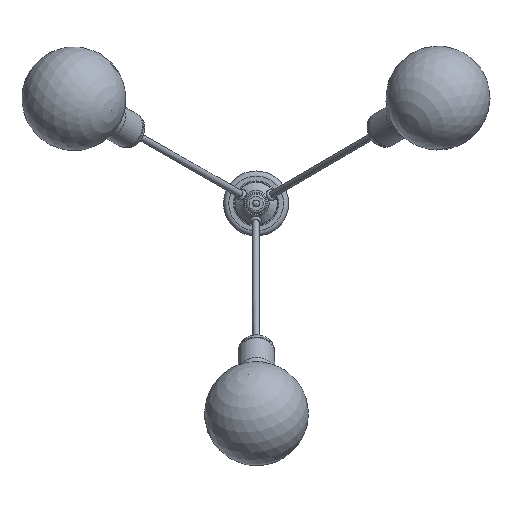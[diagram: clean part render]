
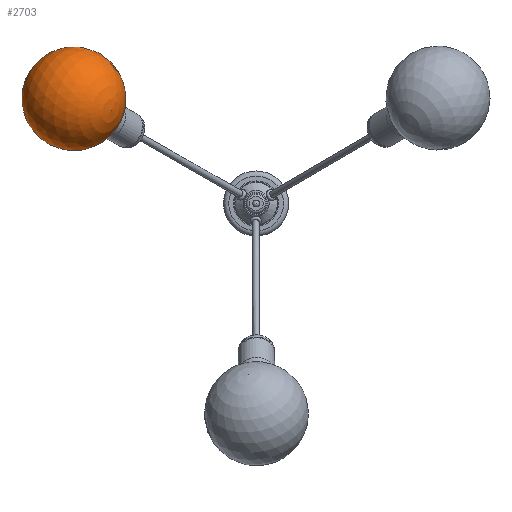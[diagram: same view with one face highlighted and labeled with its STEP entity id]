
A CAD part, front view. The second image highlights one B-rep face of the part: STEP entity #2703.
In plain terms, the highlighted spherical face has radius 60 mm.
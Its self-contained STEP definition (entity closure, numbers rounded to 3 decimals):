
#1709=FACE_BOUND('',#2023,.T.);
#1855=SPHERICAL_SURFACE('',#3067,60.);
#1946=FACE_OUTER_BOUND('',#2022,.T.);
#2022=EDGE_LOOP('',(#2620,#2621));
#2023=EDGE_LOOP('',(#2622,#2623));
#2108=CIRCLE('',#3057,31.766);
#2113=CIRCLE('',#3062,31.766);
#2117=CIRCLE('',#3068,60.);
#2207=VERTEX_POINT('',#5164);
#2208=VERTEX_POINT('',#5165);
#2215=VERTEX_POINT('',#5184);
#2216=VERTEX_POINT('',#5185);
#2343=EDGE_CURVE('',#2207,#2208,#2108,.T.);
#2348=EDGE_CURVE('',#2208,#2207,#2113,.T.);
#2353=EDGE_CURVE('',#2215,#2216,#2117,.T.);
#2620=ORIENTED_EDGE('',*,*,#2353,.T.);
#2621=ORIENTED_EDGE('',*,*,#2353,.F.);
#2622=ORIENTED_EDGE('',*,*,#2343,.F.);
#2623=ORIENTED_EDGE('',*,*,#2348,.F.);
#2703=ADVANCED_FACE('',(#1946,#1709),#1855,.T.);
#3057=AXIS2_PLACEMENT_3D('',#5166,#3828,#3829);
#3062=AXIS2_PLACEMENT_3D('',#5174,#3838,#3839);
#3067=AXIS2_PLACEMENT_3D('',#5183,#3849,#3850);
#3068=AXIS2_PLACEMENT_3D('',#5186,#3851,#3852);
#3828=DIRECTION('center_axis',(0.,1.,0.));
#3829=DIRECTION('ref_axis',(-1.,0.,0.));
#3838=DIRECTION('center_axis',(0.,1.,0.));
#3839=DIRECTION('ref_axis',(-1.,0.,0.));
#3849=DIRECTION('center_axis',(0.,0.,1.));
#3850=DIRECTION('ref_axis',(1.,0.,0.));
#3851=DIRECTION('center_axis',(0.,-1.,0.));
#3852=DIRECTION('ref_axis',(-1.,0.,0.));
#5164=CARTESIAN_POINT('',(31.766,50.901,0.));
#5165=CARTESIAN_POINT('',(0.,50.901,31.766));
#5166=CARTESIAN_POINT('Origin',(0.,50.901,0.));
#5174=CARTESIAN_POINT('Origin',(0.,50.901,0.));
#5183=CARTESIAN_POINT('Origin',(0.,0.,0.));
#5184=CARTESIAN_POINT('',(0.,0.,60.));
#5185=CARTESIAN_POINT('',(0.,0.,-60.));
#5186=CARTESIAN_POINT('Origin',(0.,0.,0.));
